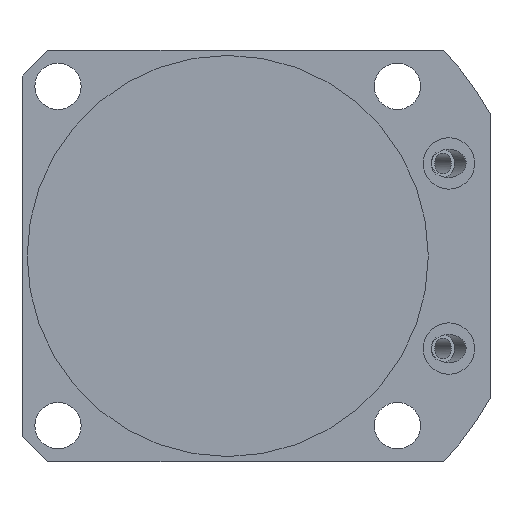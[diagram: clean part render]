
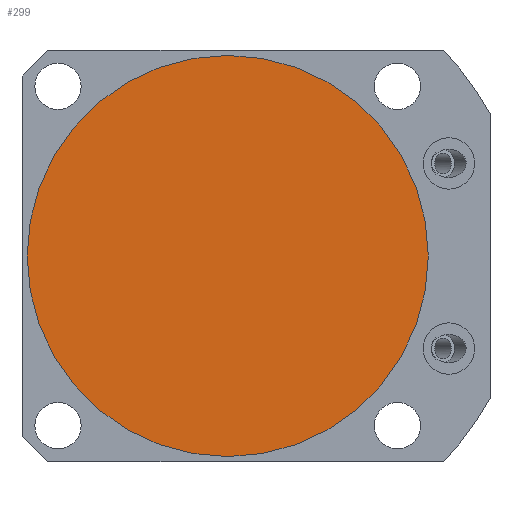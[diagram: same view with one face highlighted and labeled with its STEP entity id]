
A CAD part, front view. The second image highlights one B-rep face of the part: STEP entity #299.
In plain terms, the highlighted planar face has unit normal (0, -1, 0).
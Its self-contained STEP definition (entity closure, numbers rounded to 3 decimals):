
#299 = ADVANCED_FACE( '', ( #468 ), #469, .F. );
#468 = FACE_OUTER_BOUND( '', #814, .T. );
#469 = PLANE( '', #815 );
#814 = EDGE_LOOP( '', ( #1218 ) );
#815 = AXIS2_PLACEMENT_3D( '', #1219, #1220, #1221 );
#1218 = ORIENTED_EDGE( '', *, *, #2069, .T. );
#1219 = CARTESIAN_POINT( '', ( 0., -94., 39. ) );
#1220 = DIRECTION( '', ( 0., 1., 0. ) );
#1221 = DIRECTION( '', ( 0., 0., -1. ) );
#2069 = EDGE_CURVE( '', #2390, #2390, #2391, .T. );
#2390 = VERTEX_POINT( '', #2932 );
#2391 = CIRCLE( '', #2933, 39. );
#2932 = CARTESIAN_POINT( '', ( 0., -94., 39. ) );
#2933 = AXIS2_PLACEMENT_3D( '', #3879, #3880, #3881 );
#3879 = CARTESIAN_POINT( '', ( 0., -94., 0. ) );
#3880 = DIRECTION( '', ( 0., -1., 0. ) );
#3881 = DIRECTION( '', ( 0., 0., 1. ) );
